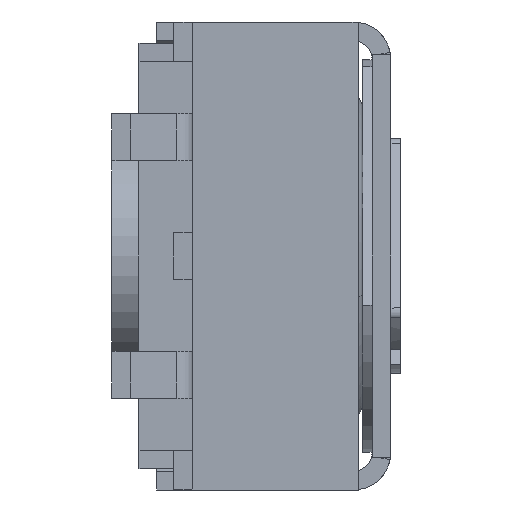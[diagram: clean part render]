
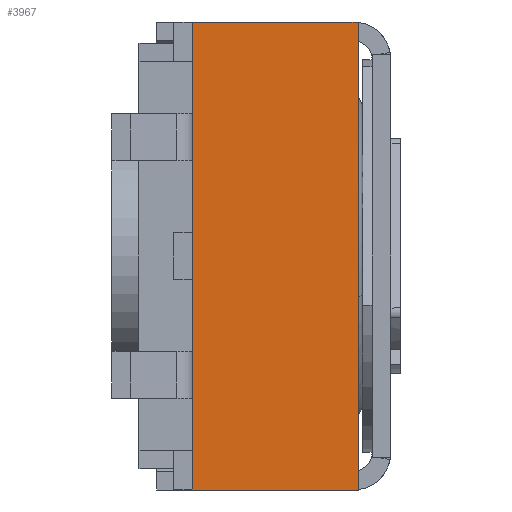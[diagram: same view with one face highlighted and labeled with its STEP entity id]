
A CAD part, left-side view. The second image highlights one B-rep face of the part: STEP entity #3967.
In plain terms, the highlighted planar face has unit normal (-1, 0, 0).
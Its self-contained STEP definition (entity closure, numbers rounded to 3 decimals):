
#363=DIRECTION('',(0.,0.,1.));
#364=VECTOR('',#363,5.);
#365=CARTESIAN_POINT('',(-2.5,0.,-2.5));
#366=LINE('',#365,#364);
#367=DIRECTION('',(0.,1.,0.));
#368=VECTOR('',#367,1.77);
#369=CARTESIAN_POINT('',(-2.5,-1.77,-2.5));
#370=LINE('',#369,#368);
#375=DIRECTION('',(0.,1.,0.));
#376=VECTOR('',#375,1.77);
#377=CARTESIAN_POINT('',(-2.5,-1.77,2.5));
#378=LINE('',#377,#376);
#511=DIRECTION('',(0.,0.,1.));
#512=VECTOR('',#511,5.);
#513=CARTESIAN_POINT('',(-2.5,-1.77,-2.5));
#514=LINE('',#513,#512);
#2928=CARTESIAN_POINT('',(-2.5,0.,2.5));
#2929=VERTEX_POINT('',#2928);
#2930=CARTESIAN_POINT('',(-2.5,0.,-2.5));
#2931=VERTEX_POINT('',#2930);
#3030=CARTESIAN_POINT('',(-2.5,-1.77,-2.5));
#3031=VERTEX_POINT('',#3030);
#3032=CARTESIAN_POINT('',(-2.5,-1.77,2.5));
#3033=VERTEX_POINT('',#3032);
#3954=CARTESIAN_POINT('',(-2.5,0.,2.5));
#3955=DIRECTION('',(-1.,0.,0.));
#3956=DIRECTION('',(0.,0.,-1.));
#3957=AXIS2_PLACEMENT_3D('',#3954,#3955,#3956);
#3958=PLANE('',#3957);
#3959=ORIENTED_EDGE('',*,*,#3565,.T.);
#3961=ORIENTED_EDGE('',*,*,#3960,.F.);
#3963=ORIENTED_EDGE('',*,*,#3962,.F.);
#3964=ORIENTED_EDGE('',*,*,#3946,.T.);
#3965=EDGE_LOOP('',(#3959,#3961,#3963,#3964));
#3966=FACE_OUTER_BOUND('',#3965,.F.);
#3565=EDGE_CURVE('',#2931,#2929,#366,.T.);
#3946=EDGE_CURVE('',#3031,#2931,#370,.T.);
#3960=EDGE_CURVE('',#3033,#2929,#378,.T.);
#3962=EDGE_CURVE('',#3031,#3033,#514,.T.);
#3967=ADVANCED_FACE('',(#3966),#3958,.T.);
